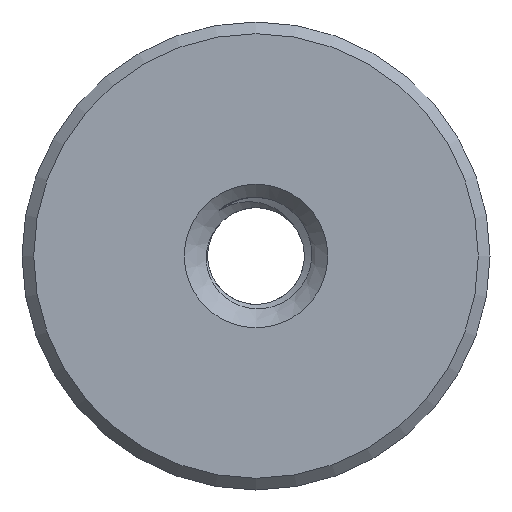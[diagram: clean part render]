
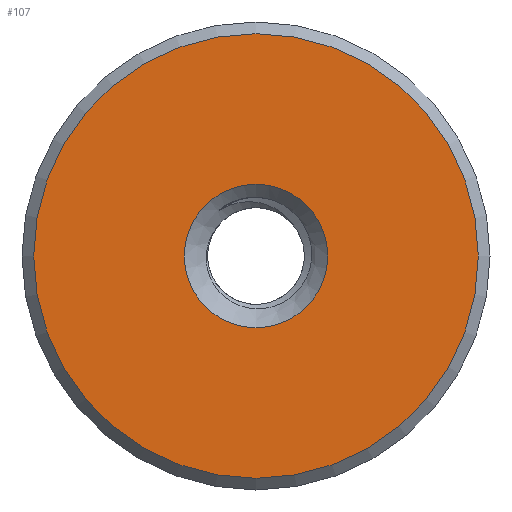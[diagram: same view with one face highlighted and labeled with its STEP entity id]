
A CAD part, left-side view. The second image highlights one B-rep face of the part: STEP entity #107.
In plain terms, the highlighted planar face has unit normal (-1, 0, 0).
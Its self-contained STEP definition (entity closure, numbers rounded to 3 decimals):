
#107=ADVANCED_FACE('',(#2903,#2905),#2907,.T.);
#2903=FACE_BOUND('',#2904,.T.);
#2904=EDGE_LOOP('',(#3395));
#2905=FACE_BOUND('',#2906,.T.);
#2906=EDGE_LOOP('',(#3396));
#2907=PLANE('',#2908);
#2908=AXIS2_PLACEMENT_3D('',#2909,#2910,#2911);
#2909=CARTESIAN_POINT('',(0.,0.,0.));
#2910=DIRECTION('',(-1.,0.,0.));
#2911=DIRECTION('',(0.,0.,-1.));
#3395=ORIENTED_EDGE('',*,*,#3448,.T.);
#3396=ORIENTED_EDGE('',*,*,#3436,.T.);
#3436=EDGE_CURVE('',#3479,#3479,#3480,.F.);
#3448=EDGE_CURVE('',#3499,#3499,#3500,.T.);
#3479=VERTEX_POINT('',#3797);
#3480=CIRCLE('',#3798,3.067);
#3499=VERTEX_POINT('',#4719);
#3500=CIRCLE('',#4720,9.5);
#3797=CARTESIAN_POINT('',(0.,0.,-3.067));
#3798=AXIS2_PLACEMENT_3D('',#3799,#3800,#3801);
#3799=CARTESIAN_POINT('',(0.,0.,0.));
#3800=DIRECTION('',(-1.,0.,0.));
#3801=DIRECTION('',(0.,0.,-1.));
#4719=CARTESIAN_POINT('',(0.,0.,-9.5));
#4720=AXIS2_PLACEMENT_3D('',#4721,#4722,#4723);
#4721=CARTESIAN_POINT('',(0.,0.,0.));
#4722=DIRECTION('',(-1.,0.,0.));
#4723=DIRECTION('',(0.,0.,-1.));
